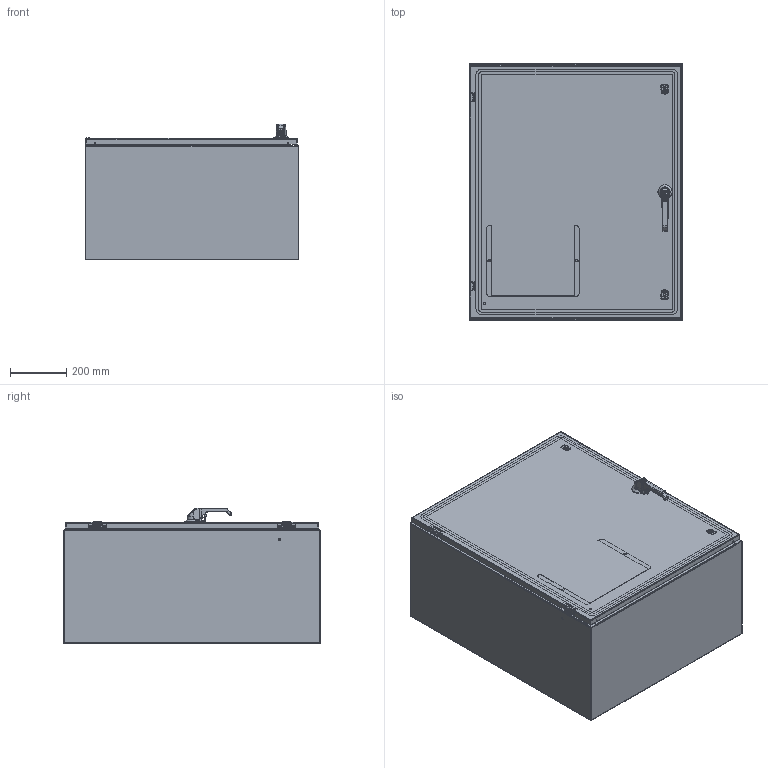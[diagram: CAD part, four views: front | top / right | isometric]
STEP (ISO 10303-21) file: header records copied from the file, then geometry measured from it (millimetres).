
FILE_DESCRIPTION((''),'2;1');
FILE_NAME('MODEL-032_ASM','2026-01-26T08:21:07',('dougp'),('SAGINAW CONTROL & ENGINEERING'),'CREO PARAMETRIC BY PTC INC, 2021284','CREO PARAMETRIC BY PTC INC, 2021284','');
FILE_SCHEMA(('AUTOMOTIVE_DESIGN { 1 0 10303 214 1 1 1 1 }'));
Length unit declared in the file: inch
Products named in the file (48): MODEL-032-BDY; MODEL-032-TP; MODEL-032-BTM; MODEL-032-DR; 100837; 100882; 111267; 100955_HANDLE; 100955_HANDLE_INSERT; 100955_SHAFT_CAM; 100955_ADAPTER_CAM; 100955_NUT_CAM; 100955_BASE; 100955_NUT_MOUNTING_LARGE; 100955_NUT_MOUNTING_SMALL; 100955_SCREW_SMALL; 100955_INSERT; 100955_PADLOCK_CATCH; 100955_STOP_CAM; 100955_ASM; 128142; 100030; 128142_ASM; MODEL-032-ROD-UPR; 128146; 128145; 128144; 102482; MODEL-032-ROD-UPR_ASM; 128143; 112504; MODEL-032-ROD-LWR; MODEL-032-ROD-LWR_ASM; MODEL-032-POUR-GSKT; 126391; 126397; 126391_ASM; 126393; 102483; 101376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
Assembly tree (84 placements, depth 4):
  MODEL-032_ASM
    MODEL-032-BDY
    MODEL-032-TP
    MODEL-032-BTM
    MODEL-032-DOOR-ASSY_ASM
      MODEL-032-DR
      100837  x5
      100882  x4
      111267
      100955_ASM
        100955_HANDLE
        100955_HANDLE_INSERT
        100955_SHAFT_CAM
        100955_ADAPTER_CAM
        100955_NUT_CAM
        100955_BASE
        100955_NUT_MOUNTING_LARGE
        100955_NUT_MOUNTING_SMALL
        100955_SCREW_SMALL
        100955_INSERT
        100955_PADLOCK_CATCH
        100955_STOP_CAM
      128142_ASM
        128142
        100030  x2
      MODEL-032-ROD-UPR_ASM
        MODEL-032-ROD-UPR
        128146
        128145
        128144
        102482  x2
      128143  x2
      112504  x2
      MODEL-032-ROD-LWR_ASM
        MODEL-032-ROD-LWR
        128146
        128145
        128144
        102482  x2
      MODEL-032-POUR-GSKT
      126391_ASM  x2
        126391
        126397
      126393  x2
      102483  x6
      101376  x2
      101226  x2
      102140  x2
    100837
    101653  x6
    SUBPANEL-SUBASSEMBLY_ASM
      SUBPANEL
      100904  x6
Bounding box: 762 x 914.4 x 483.83 mm (x, y, z)
Volume: 8459352.4 mm3; surface area: 7659433.8 mm2
Topology: 78 solids, 78 shells, 6507 faces, 16533 edges, 10196 vertices
Faces by surface type: plane 2306, cylinder 1747, bspline 1133, torus 547, cone 546, sphere 228
Entity records: 212461 total; most frequent: CARTESIAN_POINT 72223, ORIENTED_EDGE 21066, DIRECTION 19269, PRESENTATION_STYLE_ASSIGNMENT 10690, STYLED_ITEM 10573, CURVE_STYLE 10533, EDGE_CURVE 10533, AXIS2_PLACEMENT_3D 7210
